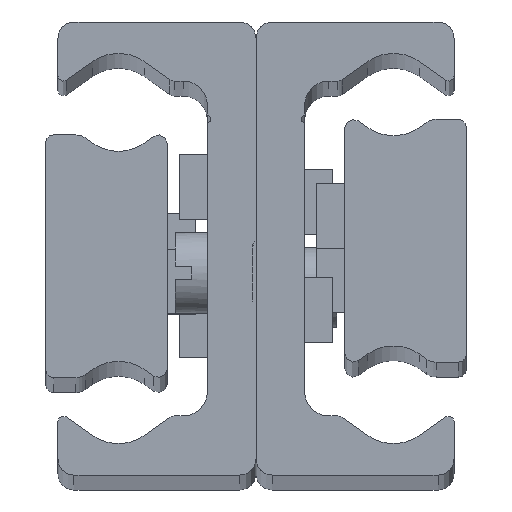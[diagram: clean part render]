
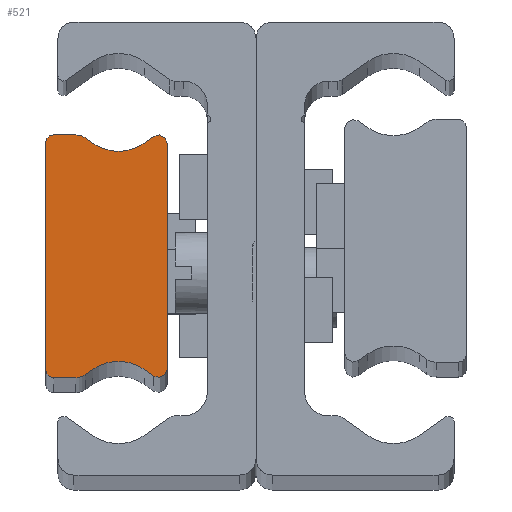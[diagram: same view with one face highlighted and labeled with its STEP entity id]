
A CAD part, top view. The second image highlights one B-rep face of the part: STEP entity #521.
In plain terms, the highlighted planar face has unit normal (0, 0, 1) as drawn and (0, 0, -1) by its records, which use the part's own axes.
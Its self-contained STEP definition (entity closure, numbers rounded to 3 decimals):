
#521 = ADVANCED_FACE( '', ( #1077 ), #1078, .F. );
#1077 = FACE_OUTER_BOUND( '', #1607, .T. );
#1078 = PLANE( '', #1608 );
#1607 = EDGE_LOOP( '', ( #2781, #2782, #2783, #2784, #2785, #2786, #2787, #2788, #2789, #2790, #2791, #2792, #2793, #2794, #2795, #2796 ) );
#1608 = AXIS2_PLACEMENT_3D( '', #2797, #2798, #2799 );
#2781 = ORIENTED_EDGE( '', *, *, #2967, .F. );
#2782 = ORIENTED_EDGE( '', *, *, #3239, .F. );
#2783 = ORIENTED_EDGE( '', *, *, #3194, .F. );
#2784 = ORIENTED_EDGE( '', *, *, #3214, .F. );
#2785 = ORIENTED_EDGE( '', *, *, #2989, .F. );
#2786 = ORIENTED_EDGE( '', *, *, #3063, .T. );
#2787 = ORIENTED_EDGE( '', *, *, #2984, .F. );
#2788 = ORIENTED_EDGE( '', *, *, #3000, .F. );
#2789 = ORIENTED_EDGE( '', *, *, #3120, .F. );
#2790 = ORIENTED_EDGE( '', *, *, #3292, .F. );
#2791 = ORIENTED_EDGE( '', *, *, #3031, .F. );
#2792 = ORIENTED_EDGE( '', *, *, #3060, .T. );
#2793 = ORIENTED_EDGE( '', *, *, #2876, .F. );
#2794 = ORIENTED_EDGE( '', *, *, #3295, .F. );
#2795 = ORIENTED_EDGE( '', *, *, #3088, .F. );
#2796 = ORIENTED_EDGE( '', *, *, #3218, .F. );
#2797 = CARTESIAN_POINT( '', ( 0.5, -7., -530. ) );
#2798 = DIRECTION( '', ( 0., 0., 1. ) );
#2799 = DIRECTION( '', ( 1., 0., 0. ) );
#2876 = EDGE_CURVE( '', #3371, #3373, #3374, .T. );
#2967 = EDGE_CURVE( '', #3524, #3526, #3527, .T. );
#2984 = EDGE_CURVE( '', #3552, #3554, #3555, .T. );
#2989 = EDGE_CURVE( '', #3561, #3563, #3564, .T. );
#3000 = EDGE_CURVE( '', #3579, #3552, #3581, .T. );
#3031 = EDGE_CURVE( '', #3627, #3629, #3630, .T. );
#3060 = EDGE_CURVE( '', #3627, #3373, #3673, .T. );
#3063 = EDGE_CURVE( '', #3561, #3554, #3676, .T. );
#3088 = EDGE_CURVE( '', #3713, #3715, #3716, .T. );
#3120 = EDGE_CURVE( '', #3764, #3579, #3766, .T. );
#3194 = EDGE_CURVE( '', #3869, #3871, #3872, .T. );
#3214 = EDGE_CURVE( '', #3563, #3869, #3896, .T. );
#3218 = EDGE_CURVE( '', #3526, #3713, #3900, .T. );
#3239 = EDGE_CURVE( '', #3871, #3524, #3927, .T. );
#3292 = EDGE_CURVE( '', #3629, #3764, #3987, .T. );
#3295 = EDGE_CURVE( '', #3715, #3371, #3990, .T. );
#3371 = VERTEX_POINT( '', #4087 );
#3373 = VERTEX_POINT( '', #4090 );
#3374 = LINE( '', #4091, #4092 );
#3524 = VERTEX_POINT( '', #4285 );
#3526 = VERTEX_POINT( '', #4288 );
#3527 = LINE( '', #4289, #4290 );
#3552 = VERTEX_POINT( '', #4323 );
#3554 = VERTEX_POINT( '', #4326 );
#3555 = LINE( '', #4327, #4328 );
#3561 = VERTEX_POINT( '', #4336 );
#3563 = VERTEX_POINT( '', #4339 );
#3564 = LINE( '', #4340, #4341 );
#3579 = VERTEX_POINT( '', #4357 );
#3581 = CIRCLE( '', #4360, 0.523 );
#3627 = VERTEX_POINT( '', #4419 );
#3629 = VERTEX_POINT( '', #4422 );
#3630 = LINE( '', #4423, #4424 );
#3673 = CIRCLE( '', #4479, 2.778 );
#3676 = CIRCLE( '', #4482, 2.778 );
#3713 = VERTEX_POINT( '', #4530 );
#3715 = VERTEX_POINT( '', #4533 );
#3716 = LINE( '', #4534, #4535 );
#3764 = VERTEX_POINT( '', #4595 );
#3766 = LINE( '', #4598, #4599 );
#3869 = VERTEX_POINT( '', #4733 );
#3871 = VERTEX_POINT( '', #4736 );
#3872 = LINE( '', #4737, #4738 );
#3896 = CIRCLE( '', #4768, 1. );
#3900 = CIRCLE( '', #4772, 0.5 );
#3927 = CIRCLE( '', #4807, 0.5 );
#3987 = CIRCLE( '', #4878, 0.523 );
#3990 = CIRCLE( '', #4881, 1. );
#4087 = CARTESIAN_POINT( '', ( 2.446, -7.319, -530. ) );
#4090 = CARTESIAN_POINT( '', ( 2.907, -6.997, -530. ) );
#4091 = CARTESIAN_POINT( '', ( 2.446, -7.319, -530. ) );
#4092 = VECTOR( '', #4941, 1000. );
#4285 = CARTESIAN_POINT( '', ( 0., 7., -530. ) );
#4288 = CARTESIAN_POINT( '', ( 0., -7., -530. ) );
#4289 = CARTESIAN_POINT( '', ( 0., 7., -530. ) );
#4290 = VECTOR( '', #5058, 1000. );
#4323 = CARTESIAN_POINT( '', ( 6.677, 7.405, -530. ) );
#4326 = CARTESIAN_POINT( '', ( 6.093, 6.997, -530. ) );
#4327 = CARTESIAN_POINT( '', ( 6.677, 7.405, -530. ) );
#4328 = VECTOR( '', #5074, 1000. );
#4336 = CARTESIAN_POINT( '', ( 2.907, 6.997, -530. ) );
#4339 = CARTESIAN_POINT( '', ( 2.446, 7.319, -530. ) );
#4340 = CARTESIAN_POINT( '', ( 2.907, 6.997, -530. ) );
#4341 = VECTOR( '', #5078, 1000. );
#4357 = CARTESIAN_POINT( '', ( 7.5, 6.977, -530. ) );
#4360 = AXIS2_PLACEMENT_3D( '', #5096, #5097, #5098 );
#4419 = CARTESIAN_POINT( '', ( 6.093, -6.997, -530. ) );
#4422 = CARTESIAN_POINT( '', ( 6.677, -7.405, -530. ) );
#4423 = CARTESIAN_POINT( '', ( 6.093, -6.997, -530. ) );
#4424 = VECTOR( '', #5134, 1000. );
#4479 = AXIS2_PLACEMENT_3D( '', #5174, #5175, #5176 );
#4482 = AXIS2_PLACEMENT_3D( '', #5180, #5181, #5182 );
#4530 = CARTESIAN_POINT( '', ( 0.5, -7.5, -530. ) );
#4533 = CARTESIAN_POINT( '', ( 1.873, -7.5, -530. ) );
#4534 = CARTESIAN_POINT( '', ( 0.5, -7.5, -530. ) );
#4535 = VECTOR( '', #5210, 1000. );
#4595 = CARTESIAN_POINT( '', ( 7.5, -6.977, -530. ) );
#4598 = CARTESIAN_POINT( '', ( 7.5, -6.977, -530. ) );
#4599 = VECTOR( '', #5254, 1000. );
#4733 = CARTESIAN_POINT( '', ( 1.873, 7.5, -530. ) );
#4736 = CARTESIAN_POINT( '', ( 0.5, 7.5, -530. ) );
#4737 = CARTESIAN_POINT( '', ( 1.873, 7.5, -530. ) );
#4738 = VECTOR( '', #5344, 1000. );
#4768 = AXIS2_PLACEMENT_3D( '', #5363, #5364, #5365 );
#4772 = AXIS2_PLACEMENT_3D( '', #5369, #5370, #5371 );
#4807 = AXIS2_PLACEMENT_3D( '', #5392, #5393, #5394 );
#4878 = AXIS2_PLACEMENT_3D( '', #5439, #5440, #5441 );
#4881 = AXIS2_PLACEMENT_3D( '', #5442, #5443, #5444 );
#4941 = DIRECTION( '', ( 0.819, 0.574, 0. ) );
#5058 = DIRECTION( '', ( 0., -1., 0. ) );
#5074 = DIRECTION( '', ( -0.819, -0.574, 0. ) );
#5078 = DIRECTION( '', ( -0.819, 0.574, 0. ) );
#5096 = CARTESIAN_POINT( '', ( 6.977, 6.977, -530. ) );
#5097 = DIRECTION( '', ( 0., 0., 1. ) );
#5098 = DIRECTION( '', ( 1., 0., 0. ) );
#5134 = DIRECTION( '', ( 0.819, -0.574, 0. ) );
#5174 = CARTESIAN_POINT( '', ( 4.5, -9.272, -530. ) );
#5175 = DIRECTION( '', ( 0., 0., 1. ) );
#5176 = DIRECTION( '', ( 1., 0., 0. ) );
#5180 = CARTESIAN_POINT( '', ( 4.5, 9.272, -530. ) );
#5181 = DIRECTION( '', ( 0., 0., 1. ) );
#5182 = DIRECTION( '', ( 1., 0., 0. ) );
#5210 = DIRECTION( '', ( 1., 0., 0. ) );
#5254 = DIRECTION( '', ( 0., 1., 0. ) );
#5344 = DIRECTION( '', ( -1., 0., 0. ) );
#5363 = CARTESIAN_POINT( '', ( 1.873, 6.5, -530. ) );
#5364 = DIRECTION( '', ( 0., 0., 1. ) );
#5365 = DIRECTION( '', ( 1., 0., 0. ) );
#5369 = CARTESIAN_POINT( '', ( 0.5, -7., -530. ) );
#5370 = DIRECTION( '', ( 0., 0., 1. ) );
#5371 = DIRECTION( '', ( 1., 0., 0. ) );
#5392 = CARTESIAN_POINT( '', ( 0.5, 7., -530. ) );
#5393 = DIRECTION( '', ( 0., 0., 1. ) );
#5394 = DIRECTION( '', ( 1., 0., 0. ) );
#5439 = CARTESIAN_POINT( '', ( 6.977, -6.977, -530. ) );
#5440 = DIRECTION( '', ( 0., 0., 1. ) );
#5441 = DIRECTION( '', ( 1., 0., 0. ) );
#5442 = CARTESIAN_POINT( '', ( 1.873, -6.5, -530. ) );
#5443 = DIRECTION( '', ( 0., 0., 1. ) );
#5444 = DIRECTION( '', ( 1., 0., 0. ) );
